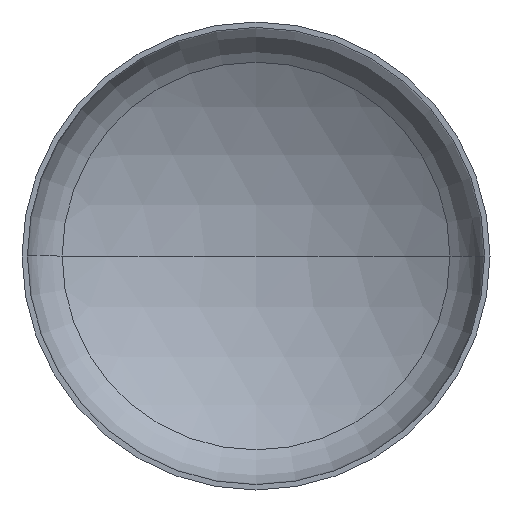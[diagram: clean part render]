
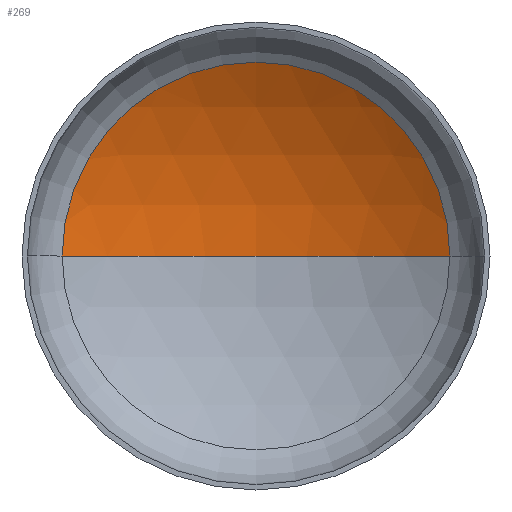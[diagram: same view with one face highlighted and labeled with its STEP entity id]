
A CAD part, front view. The second image highlights one B-rep face of the part: STEP entity #269.
In plain terms, the highlighted spherical face has radius 2080 mm.
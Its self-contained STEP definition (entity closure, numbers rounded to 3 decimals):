
#8 = VERTEX_POINT ( 'NONE', #221 ) ;
#15 = ORIENTED_EDGE ( 'NONE', *, *, #217, .T. ) ;
#38 = EDGE_LOOP ( 'NONE', ( #308, #56, #15 ) ) ;
#47 = VERTEX_POINT ( 'NONE', #147 ) ;
#48 = DIRECTION ( 'NONE',  ( -1., 0., 0. ) ) ;
#56 = ORIENTED_EDGE ( 'NONE', *, *, #219, .T. ) ;
#82 = VERTEX_POINT ( 'NONE', #251 ) ;
#119 = AXIS2_PLACEMENT_3D ( 'NONE', #276, #294, #136 ) ;
#122 = AXIS2_PLACEMENT_3D ( 'NONE', #316, #170, #331 ) ;
#126 = AXIS2_PLACEMENT_3D ( 'NONE', #396, #274, #48 ) ;
#132 = AXIS2_PLACEMENT_3D ( 'NONE', #201, #350, #228 ) ;
#136 = DIRECTION ( 'NONE',  ( -1., 0., 0. ) ) ;
#137 = CIRCLE ( 'NONE', #126, 2080. ) ;
#147 = CARTESIAN_POINT ( 'NONE',  ( -1077.143, 432.187, 0. ) ) ;
#170 = DIRECTION ( 'NONE',  ( 0., 0., 1. ) ) ;
#201 = CARTESIAN_POINT ( 'NONE',  ( 0., 432.187, 0. ) ) ;
#205 = FACE_OUTER_BOUND ( 'NONE', #38, .T. ) ;
#217 = EDGE_CURVE ( 'NONE', #8, #47, #281, .T. ) ;
#219 = EDGE_CURVE ( 'NONE', #82, #8, #137, .T. ) ;
#221 = CARTESIAN_POINT ( 'NONE',  ( 1077.143, 432.187, 0. ) ) ;
#222 = EDGE_CURVE ( 'NONE', #82, #47, #386, .T. ) ;
#228 = DIRECTION ( 'NONE',  ( 1., 0., 0. ) ) ;
#251 = CARTESIAN_POINT ( 'NONE',  ( 0., 732.815, 0. ) ) ;
#269 = ADVANCED_FACE ( 'NONE', ( #205 ), #324, .F. ) ;
#274 = DIRECTION ( 'NONE',  ( 0., 0., -1. ) ) ;
#276 = CARTESIAN_POINT ( 'NONE',  ( 0., -1347.185, 0. ) ) ;
#281 = CIRCLE ( 'NONE', #132, 1077.143 ) ;
#294 = DIRECTION ( 'NONE',  ( 0., 0., -1. ) ) ;
#308 = ORIENTED_EDGE ( 'NONE', *, *, #222, .F. ) ;
#316 = CARTESIAN_POINT ( 'NONE',  ( 0., -1347.185, 0. ) ) ;
#324 = SPHERICAL_SURFACE ( 'NONE', #119, 2080. ) ;
#331 = DIRECTION ( 'NONE',  ( 1., 0., 0. ) ) ;
#350 = DIRECTION ( 'NONE',  ( 0., -1., 0. ) ) ;
#386 = CIRCLE ( 'NONE', #122, 2080. ) ;
#396 = CARTESIAN_POINT ( 'NONE',  ( 0., -1347.185, 0. ) ) ;
